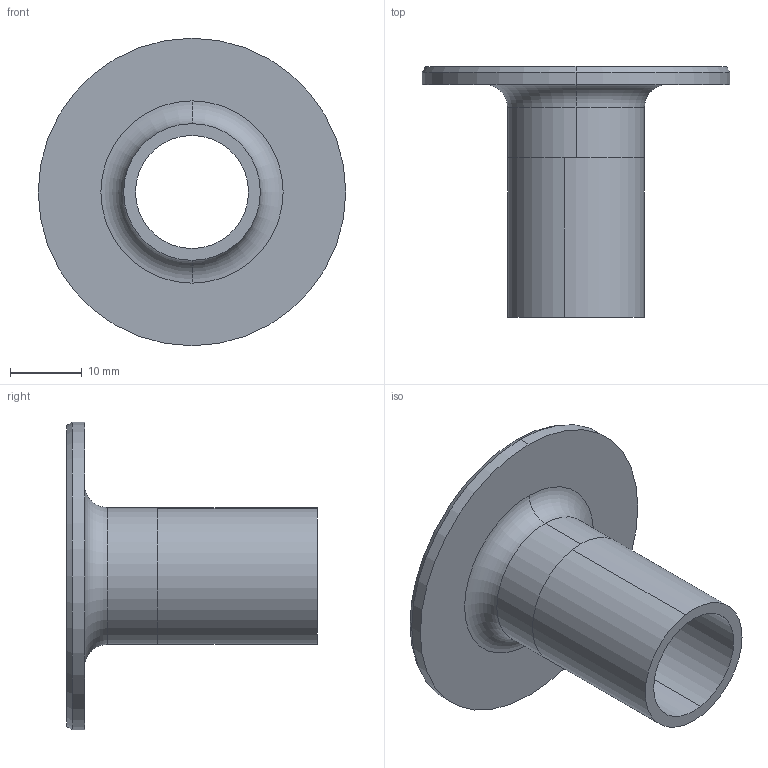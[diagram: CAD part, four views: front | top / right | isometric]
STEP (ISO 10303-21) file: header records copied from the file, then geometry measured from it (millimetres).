
FILE_DESCRIPTION (( 'STEP AP203' ), '1' );
FILE_NAME ('E14WA.75.STEP', '2018-05-04T16:53:35', ( 'vneprd' ), ( 'Microsoft' ), 'SwSTEP 2.0', 'SolidWorks 2014', '' );
FILE_SCHEMA (( 'CONFIG_CONTROL_DESIGN' ));
Length unit declared in the file: inch
Products named in the file (3): E14WA.75; V14WAB.75; TUBE.75X.875
Assembly tree (2 placements, depth 2):
  E14WA.75
    V14WAB.75
    TUBE.75X.875
Bounding box: 42.85 x 34.92 x 42.85 mm (x, y, z)
Volume: 5687.2 mm3; surface area: 7724.9 mm2
Topology: 2 solids, 2 shells, 75 faces, 150 edges, 80 vertices
Faces by surface type: cone 58, cylinder 10, plane 5, torus 2
Entity records: 2225 total; most frequent: DIRECTION 392, CARTESIAN_POINT 310, ORIENTED_EDGE 300, AXIS2_PLACEMENT_3D 162, EDGE_CURVE 150, CIRCLE 82, EDGE_LOOP 80, VERTEX_POINT 80
